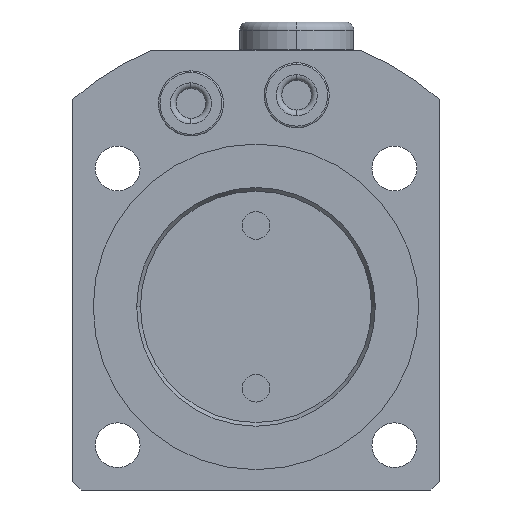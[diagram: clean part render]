
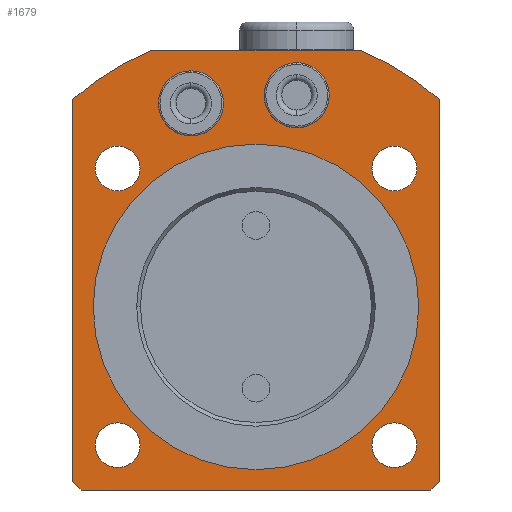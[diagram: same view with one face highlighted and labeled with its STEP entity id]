
A CAD part, front view. The second image highlights one B-rep face of the part: STEP entity #1679.
In plain terms, the highlighted planar face has unit normal (0, -1, 0).
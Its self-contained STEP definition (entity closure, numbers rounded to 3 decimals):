
#1044=PLANE('',#4282);
#1107=FACE_BOUND('',#2089,.T.);
#1108=FACE_BOUND('',#2090,.T.);
#1109=FACE_BOUND('',#2091,.T.);
#1110=FACE_BOUND('',#2092,.T.);
#1111=FACE_BOUND('',#2093,.T.);
#1112=FACE_BOUND('',#2094,.T.);
#1113=FACE_BOUND('',#2095,.T.);
#1114=FACE_BOUND('',#2096,.T.);
#1338=LINE('',#6305,#1514);
#1339=LINE('',#6309,#1515);
#1340=LINE('',#6311,#1516);
#1341=LINE('',#6313,#1517);
#1342=LINE('',#6315,#1518);
#1343=LINE('',#6317,#1519);
#1514=VECTOR('',#5063,1.);
#1515=VECTOR('',#5066,1.);
#1516=VECTOR('',#5067,1.);
#1517=VECTOR('',#5068,1.);
#1518=VECTOR('',#5069,1.);
#1519=VECTOR('',#5070,1.);
#1679=ADVANCED_FACE('',(#1107,#1108,#1109,#1110,#1111,#1112,#1113,#1114),
#1044,.T.);
#2089=EDGE_LOOP('',(#2634,#2635));
#2090=EDGE_LOOP('',(#2636,#2637));
#2091=EDGE_LOOP('',(#2638,#2639));
#2092=EDGE_LOOP('',(#2640,#2641));
#2093=EDGE_LOOP('',(#2642,#2643));
#2094=EDGE_LOOP('',(#2644,#2645));
#2095=EDGE_LOOP('',(#2646,#2647));
#2096=EDGE_LOOP('',(#2648,#2649,#2650,#2651,#2652,#2653,#2654,#2655));
#2634=ORIENTED_EDGE('',*,*,#3642,.F.);
#2635=ORIENTED_EDGE('',*,*,#3512,.F.);
#2636=ORIENTED_EDGE('',*,*,#3643,.F.);
#2637=ORIENTED_EDGE('',*,*,#3516,.F.);
#2638=ORIENTED_EDGE('',*,*,#3536,.F.);
#2639=ORIENTED_EDGE('',*,*,#3644,.F.);
#2640=ORIENTED_EDGE('',*,*,#3544,.F.);
#2641=ORIENTED_EDGE('',*,*,#3645,.F.);
#2642=ORIENTED_EDGE('',*,*,#3552,.F.);
#2643=ORIENTED_EDGE('',*,*,#3646,.F.);
#2644=ORIENTED_EDGE('',*,*,#3560,.F.);
#2645=ORIENTED_EDGE('',*,*,#3647,.F.);
#2646=ORIENTED_EDGE('',*,*,#3588,.T.);
#2647=ORIENTED_EDGE('',*,*,#3648,.T.);
#2648=ORIENTED_EDGE('',*,*,#3649,.F.);
#2649=ORIENTED_EDGE('',*,*,#3650,.T.);
#2650=ORIENTED_EDGE('',*,*,#3651,.F.);
#2651=ORIENTED_EDGE('',*,*,#3652,.T.);
#2652=ORIENTED_EDGE('',*,*,#3653,.T.);
#2653=ORIENTED_EDGE('',*,*,#3654,.T.);
#2654=ORIENTED_EDGE('',*,*,#3655,.T.);
#2655=ORIENTED_EDGE('',*,*,#3656,.T.);
#3190=VERTEX_POINT('',#5847);
#3191=VERTEX_POINT('',#5849);
#3194=VERTEX_POINT('',#5856);
#3195=VERTEX_POINT('',#5858);
#3213=VERTEX_POINT('',#5923);
#3214=VERTEX_POINT('',#5924);
#3221=VERTEX_POINT('',#5950);
#3222=VERTEX_POINT('',#5951);
#3229=VERTEX_POINT('',#5977);
#3230=VERTEX_POINT('',#5978);
#3237=VERTEX_POINT('',#6004);
#3238=VERTEX_POINT('',#6005);
#3261=VERTEX_POINT('',#6122);
#3262=VERTEX_POINT('',#6124);
#3302=VERTEX_POINT('',#6303);
#3303=VERTEX_POINT('',#6304);
#3304=VERTEX_POINT('',#6306);
#3305=VERTEX_POINT('',#6308);
#3306=VERTEX_POINT('',#6310);
#3307=VERTEX_POINT('',#6312);
#3308=VERTEX_POINT('',#6314);
#3309=VERTEX_POINT('',#6316);
#3512=EDGE_CURVE('',#3190,#3191,#3896,.T.);
#3516=EDGE_CURVE('',#3194,#3195,#3898,.T.);
#3536=EDGE_CURVE('',#3213,#3214,#3906,.T.);
#3544=EDGE_CURVE('',#3221,#3222,#3909,.T.);
#3552=EDGE_CURVE('',#3229,#3230,#3912,.T.);
#3560=EDGE_CURVE('',#3237,#3238,#3915,.T.);
#3588=EDGE_CURVE('',#3262,#3261,#3924,.T.);
#3642=EDGE_CURVE('',#3191,#3190,#3949,.T.);
#3643=EDGE_CURVE('',#3195,#3194,#3950,.T.);
#3644=EDGE_CURVE('',#3214,#3213,#3951,.T.);
#3645=EDGE_CURVE('',#3222,#3221,#3952,.T.);
#3646=EDGE_CURVE('',#3230,#3229,#3953,.T.);
#3647=EDGE_CURVE('',#3238,#3237,#3954,.T.);
#3648=EDGE_CURVE('',#3261,#3262,#3955,.T.);
#3649=EDGE_CURVE('',#3302,#3303,#3956,.T.);
#3650=EDGE_CURVE('',#3302,#3304,#1338,.T.);
#3651=EDGE_CURVE('',#3305,#3304,#3957,.T.);
#3652=EDGE_CURVE('',#3305,#3306,#1339,.T.);
#3653=EDGE_CURVE('',#3306,#3307,#1340,.T.);
#3654=EDGE_CURVE('',#3307,#3308,#1341,.T.);
#3655=EDGE_CURVE('',#3308,#3309,#1342,.T.);
#3656=EDGE_CURVE('',#3309,#3303,#1343,.T.);
#3896=CIRCLE('',#4184,4.);
#3898=CIRCLE('',#4187,4.);
#3906=CIRCLE('',#4201,2.75);
#3909=CIRCLE('',#4206,2.75);
#3912=CIRCLE('',#4211,2.75);
#3915=CIRCLE('',#4216,2.75);
#3924=CIRCLE('',#4232,20.);
#3949=CIRCLE('',#4273,4.);
#3950=CIRCLE('',#4274,4.);
#3951=CIRCLE('',#4275,2.75);
#3952=CIRCLE('',#4276,2.75);
#3953=CIRCLE('',#4277,2.75);
#3954=CIRCLE('',#4278,2.75);
#3955=CIRCLE('',#4279,20.);
#3956=CIRCLE('',#4280,34.);
#3957=CIRCLE('',#4281,34.);
#4184=AXIS2_PLACEMENT_3D('',#5848,#4810,#4811);
#4187=AXIS2_PLACEMENT_3D('',#5857,#4818,#4819);
#4201=AXIS2_PLACEMENT_3D('',#5922,#4855,#4856);
#4206=AXIS2_PLACEMENT_3D('',#5949,#4869,#4870);
#4211=AXIS2_PLACEMENT_3D('',#5976,#4883,#4884);
#4216=AXIS2_PLACEMENT_3D('',#6003,#4897,#4898);
#4232=AXIS2_PLACEMENT_3D('',#6123,#4944,#4945);
#4273=AXIS2_PLACEMENT_3D('',#6295,#5047,#5048);
#4274=AXIS2_PLACEMENT_3D('',#6296,#5049,#5050);
#4275=AXIS2_PLACEMENT_3D('',#6297,#5051,#5052);
#4276=AXIS2_PLACEMENT_3D('',#6298,#5053,#5054);
#4277=AXIS2_PLACEMENT_3D('',#6299,#5055,#5056);
#4278=AXIS2_PLACEMENT_3D('',#6300,#5057,#5058);
#4279=AXIS2_PLACEMENT_3D('',#6301,#5059,#5060);
#4280=AXIS2_PLACEMENT_3D('',#6302,#5061,#5062);
#4281=AXIS2_PLACEMENT_3D('',#6307,#5064,#5065);
#4282=AXIS2_PLACEMENT_3D('',#6318,#5071,#5072);
#4810=DIRECTION('',(0.,-1.,0.));
#4811=DIRECTION('',(1.,0.,0.));
#4818=DIRECTION('',(0.,-1.,0.));
#4819=DIRECTION('',(1.,0.,0.));
#4855=DIRECTION('',(0.,-1.,0.));
#4856=DIRECTION('',(0.,0.,1.));
#4869=DIRECTION('',(0.,-1.,0.));
#4870=DIRECTION('',(-1.,0.,0.));
#4883=DIRECTION('',(0.,-1.,0.));
#4884=DIRECTION('',(0.,0.,-1.));
#4897=DIRECTION('',(0.,-1.,0.));
#4898=DIRECTION('',(1.,0.,0.));
#4944=DIRECTION('',(0.,1.,0.));
#4945=DIRECTION('',(-1.,0.,0.));
#5047=DIRECTION('',(0.,-1.,0.));
#5048=DIRECTION('',(1.,0.,0.));
#5049=DIRECTION('',(0.,-1.,0.));
#5050=DIRECTION('',(1.,0.,0.));
#5051=DIRECTION('',(0.,-1.,0.));
#5052=DIRECTION('',(0.,0.,1.));
#5053=DIRECTION('',(0.,-1.,0.));
#5054=DIRECTION('',(-1.,0.,0.));
#5055=DIRECTION('',(0.,-1.,0.));
#5056=DIRECTION('',(0.,0.,-1.));
#5057=DIRECTION('',(0.,-1.,0.));
#5058=DIRECTION('',(1.,0.,0.));
#5059=DIRECTION('',(0.,1.,0.));
#5060=DIRECTION('',(-1.,0.,0.));
#5061=DIRECTION('',(0.,1.,0.));
#5062=DIRECTION('',(-1.,0.,0.));
#5063=DIRECTION('',(-1.,0.,0.));
#5064=DIRECTION('',(0.,1.,0.));
#5065=DIRECTION('',(-1.,0.,0.));
#5066=DIRECTION('',(0.,0.,-1.));
#5067=DIRECTION('',(0.707,0.,-0.707));
#5068=DIRECTION('',(1.,0.,0.));
#5069=DIRECTION('',(0.707,0.,0.707));
#5070=DIRECTION('',(0.,0.,1.));
#5071=DIRECTION('',(0.,-1.,0.));
#5072=DIRECTION('',(-1.,0.,0.));
#5847=CARTESIAN_POINT('',(1.,-25.,26.));
#5848=CARTESIAN_POINT('',(5.,-25.,26.));
#5849=CARTESIAN_POINT('',(9.,-25.,26.));
#5856=CARTESIAN_POINT('',(-12.,-25.,25.));
#5857=CARTESIAN_POINT('',(-8.,-25.,25.));
#5858=CARTESIAN_POINT('',(-4.,-25.,25.));
#5922=CARTESIAN_POINT('',(17.,-25.,-17.));
#5923=CARTESIAN_POINT('',(14.25,-25.,-17.));
#5924=CARTESIAN_POINT('',(19.75,-25.,-17.));
#5949=CARTESIAN_POINT('',(17.,-25.,17.));
#5950=CARTESIAN_POINT('',(17.,-25.,14.25));
#5951=CARTESIAN_POINT('',(17.,-25.,19.75));
#5976=CARTESIAN_POINT('',(-17.,-25.,17.));
#5977=CARTESIAN_POINT('',(-14.25,-25.,17.));
#5978=CARTESIAN_POINT('',(-19.75,-25.,17.));
#6003=CARTESIAN_POINT('',(-17.,-25.,-17.));
#6004=CARTESIAN_POINT('',(-17.,-25.,-14.25));
#6005=CARTESIAN_POINT('',(-17.,-25.,-19.75));
#6122=CARTESIAN_POINT('',(20.,-25.,0.));
#6123=CARTESIAN_POINT('',(0.,-25.,0.));
#6124=CARTESIAN_POINT('',(-20.,-25.,0.));
#6295=CARTESIAN_POINT('',(5.,-25.,26.));
#6296=CARTESIAN_POINT('',(-8.,-25.,25.));
#6297=CARTESIAN_POINT('',(17.,-25.,-17.));
#6298=CARTESIAN_POINT('',(17.,-25.,17.));
#6299=CARTESIAN_POINT('',(-17.,-25.,17.));
#6300=CARTESIAN_POINT('',(-17.,-25.,-17.));
#6301=CARTESIAN_POINT('',(0.,-25.,0.));
#6302=CARTESIAN_POINT('',(0.,-25.,0.));
#6303=CARTESIAN_POINT('',(12.796,-25.,31.5));
#6304=CARTESIAN_POINT('',(22.5,-25.,25.49));
#6305=CARTESIAN_POINT('',(-20.,-25.,31.5));
#6306=CARTESIAN_POINT('',(-12.796,-25.,31.5));
#6307=CARTESIAN_POINT('',(0.,-25.,0.));
#6308=CARTESIAN_POINT('',(-22.5,-25.,25.49));
#6309=CARTESIAN_POINT('',(-22.5,-25.,0.));
#6310=CARTESIAN_POINT('',(-22.5,-25.,-21.5));
#6311=CARTESIAN_POINT('',(-32.,-25.,-12.));
#6312=CARTESIAN_POINT('',(-21.5,-25.,-22.5));
#6313=CARTESIAN_POINT('',(-20.,-25.,-22.5));
#6314=CARTESIAN_POINT('',(21.5,-25.,-22.5));
#6315=CARTESIAN_POINT('',(12.,-25.,-32.));
#6316=CARTESIAN_POINT('',(22.5,-25.,-21.5));
#6317=CARTESIAN_POINT('',(22.5,-25.,0.));
#6318=CARTESIAN_POINT('',(-20.,-25.,0.));
